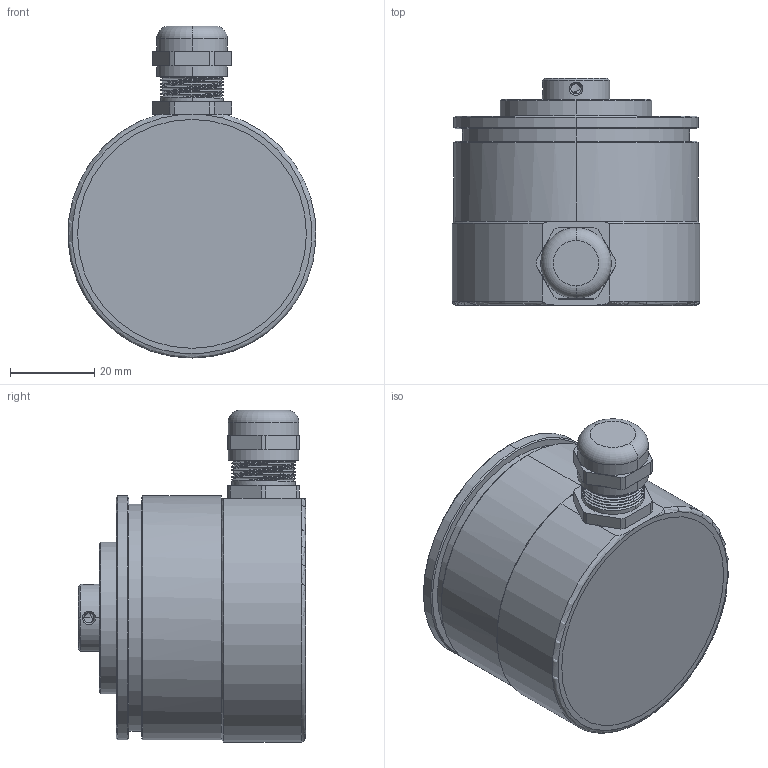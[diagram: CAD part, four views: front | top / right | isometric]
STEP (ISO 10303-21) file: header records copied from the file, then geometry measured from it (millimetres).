
FILE_DESCRIPTION (( 'STEP AP214' ), '1' );
FILE_NAME ('Áã¼þ9.STEP', '2022-03-16T15:18:13', ( 'China' ), ( 'Home' ), 'SwSTEP 2.0', 'SolidWorks 2016', '' );
FILE_SCHEMA (( 'AUTOMOTIVE_DESIGN' ));
Length unit declared in the file: millimetre
Products named in the file (1): 錨璃9
Bounding box: 58.92 x 54 x 78.9 mm (x, y, z)
Volume: 126416.6 mm3; surface area: 17837.3 mm2
Topology: 1 solids, 1 shells, 303 faces, 869 edges, 572 vertices
Faces by surface type: plane 155, cylinder 65, bspline 58, cone 22, torus 3
Full cylindrical faces by diameter (mm): 2.4 x4
Entity records: 23853 total; most frequent: CARTESIAN_POINT 15543, ORIENTED_EDGE 1754, DIRECTION 1281, EDGE_CURVE 877, VERTEX_POINT 580, LINE 465, VECTOR 465, AXIS2_PLACEMENT_3D 408
